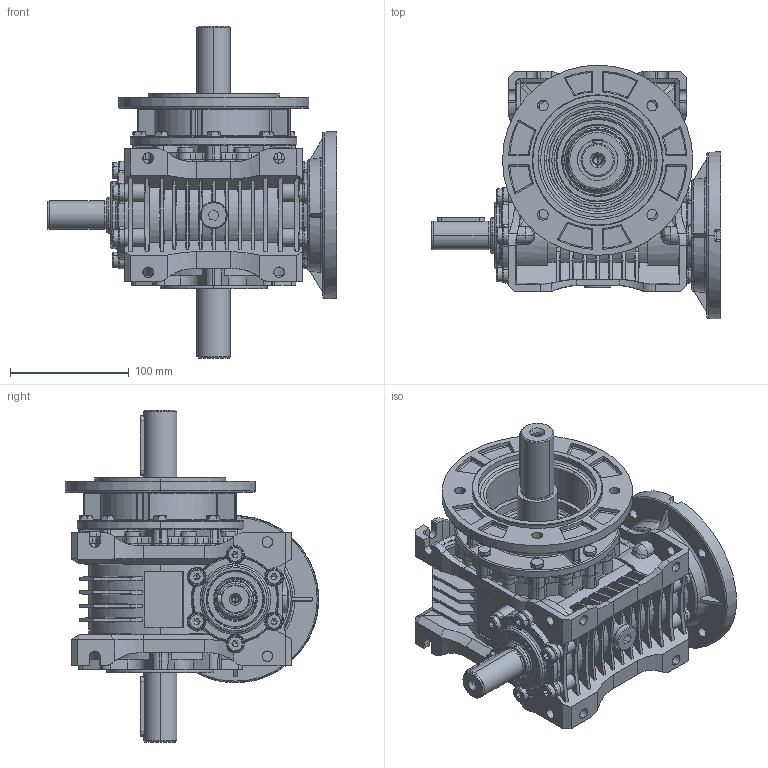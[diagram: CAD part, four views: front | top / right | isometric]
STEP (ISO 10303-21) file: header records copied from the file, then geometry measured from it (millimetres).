
FILE_DESCRIPTION (( 'STEP AP203' ), '1' );
FILE_NAME ('MR-63_140-24_K160-2_WD-2_3D.STEP', '2023-01-23T11:40:40', ( '' ), ( '' ), 'SwSTEP 2.0', 'SolidWorks 2022', '' );
FILE_SCHEMA (( 'CONFIG_CONTROL_DESIGN' ));
Products named in the file (1): MR-63_140-24_K160-2_WD-2_3D
Bounding box: 243.6 x 213.25 x 279 mm (x, y, z)
Volume: 2559908.7 mm3; surface area: 426619.9 mm2
Topology: 1 solids, 76 shells, 4314 faces, 10591 edges, 6418 vertices
Faces by surface type: plane 1375, cone 998, cylinder 730, bspline 550, torus 508, sphere 153
Entity records: 143295 total; most frequent: CARTESIAN_POINT 46683, ORIENTED_EDGE 20850, DIRECTION 19810, EDGE_CURVE 10425, AXIS2_PLACEMENT_3D 7986, VERTEX_POINT 6396, EDGE_LOOP 4517, FACE_OUTER_BOUND 4314
